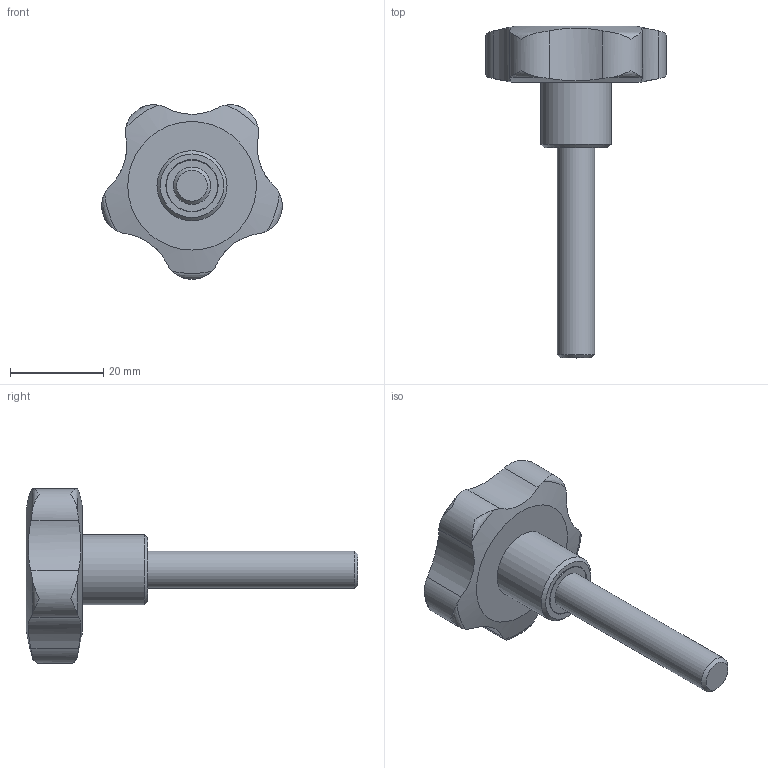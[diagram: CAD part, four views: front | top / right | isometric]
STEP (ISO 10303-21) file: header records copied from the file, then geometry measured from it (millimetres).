
FILE_DESCRIPTION( ( 'STEP AP203' ), '1' );
FILE_NAME( 'C:/Temp/Ganter_Step_05_03_2020/data/2_2/gn_5337_4/gn_5337_4_s/Star knob GN 5337.4-40-M8-45.stp', '2020-03-05T12:09:46', ( 'License CC BY-ND 4.0' ), ( 'CADENAS' ), ' ', 'PARTsolutions', ' ' );
FILE_SCHEMA( ( 'CONFIG_CONTROL_DESIGN' ) );
Length unit declared in the file: millimetre
Products named in the file (1): _Star knob GN 5337.4-40-M8-45
Bounding box: 38.62 x 71 x 37.33 mm (x, y, z)
Volume: 15734.4 mm3; surface area: 4982.3 mm2
Topology: 1 solids, 1 shells, 34 faces, 95 edges, 66 vertices
Faces by surface type: cylinder 14, torus 10, plane 5, cone 3, bspline 1, sphere 1
Full cylindrical faces by diameter (mm): 8 x1, 11 x1, 11.2 x1, 15 x1
Entity records: 1467 total; most frequent: CARTESIAN_POINT 679, ORIENTED_EDGE 164, DIRECTION 122, EDGE_CURVE 82, VERTEX_POINT 63, AXIS2_PLACEMENT_3D 56, B_SPLINE_CURVE_WITH_KNOTS 50, EDGE_LOOP 46
